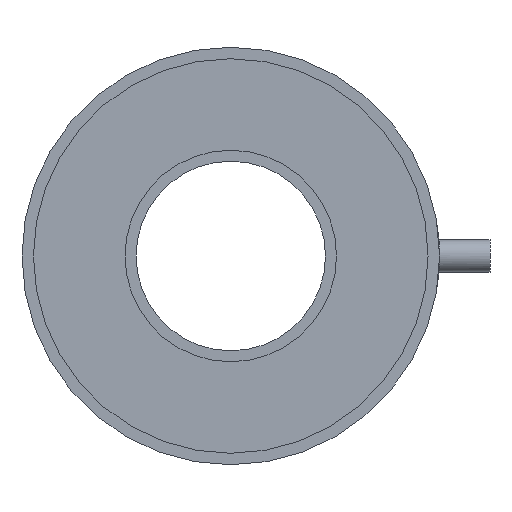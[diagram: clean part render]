
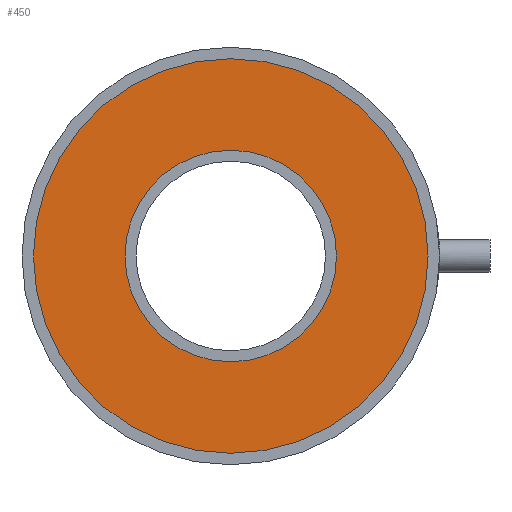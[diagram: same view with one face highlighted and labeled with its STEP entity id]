
A CAD part, front view. The second image highlights one B-rep face of the part: STEP entity #450.
In plain terms, the highlighted planar face has unit normal (0, -1, 0).
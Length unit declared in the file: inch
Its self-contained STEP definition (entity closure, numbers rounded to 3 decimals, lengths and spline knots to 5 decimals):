
#10 = EDGE_CURVE ( 'NONE', #221, #229, #108, .T. ) ;
#11 = EDGE_CURVE ( 'NONE', #226, #255, #128, .T. ) ;
#37 = ORIENTED_EDGE ( 'NONE', *, *, #10, .F. ) ;
#38 = ORIENTED_EDGE ( 'NONE', *, *, #410, .T. ) ;
#51 = EDGE_LOOP ( 'NONE', ( #77, #38 ) ) ;
#75 = ORIENTED_EDGE ( 'NONE', *, *, #374, .F. ) ;
#77 = ORIENTED_EDGE ( 'NONE', *, *, #11, .T. ) ;
#85 = EDGE_LOOP ( 'NONE', ( #75, #37 ) ) ;
#107 = CIRCLE ( 'NONE', #407, 0.2305 ) ;
#108 = CIRCLE ( 'NONE', #414, 0.2305 ) ;
#128 = CIRCLE ( 'NONE', #439, 0.43 ) ;
#169 = FACE_BOUND ( 'NONE', #85, .T. ) ;
#170 = FACE_OUTER_BOUND ( 'NONE', #51, .T. ) ;
#178 = CIRCLE ( 'NONE', #417, 0.43 ) ;
#221 = VERTEX_POINT ( 'NONE', #294 ) ;
#226 = VERTEX_POINT ( 'NONE', #267 ) ;
#229 = VERTEX_POINT ( 'NONE', #288 ) ;
#233 = DIRECTION ( 'NONE',  ( 0., -1., 0. ) ) ;
#240 = DIRECTION ( 'NONE',  ( 0., 0., -1. ) ) ;
#241 = CARTESIAN_POINT ( 'NONE',  ( 0., 0.0231, 0. ) ) ;
#243 = CARTESIAN_POINT ( 'NONE',  ( 0., 0.0231, 0. ) ) ;
#255 = VERTEX_POINT ( 'NONE', #314 ) ;
#267 = CARTESIAN_POINT ( 'NONE',  ( 0., 0.0231, -0.43 ) ) ;
#283 = DIRECTION ( 'NONE',  ( 0., 0., -1. ) ) ;
#284 = CARTESIAN_POINT ( 'NONE',  ( 0., 0.0231, 0. ) ) ;
#288 = CARTESIAN_POINT ( 'NONE',  ( 0., 0.0231, -0.2305 ) ) ;
#294 = CARTESIAN_POINT ( 'NONE',  ( 0., 0.0231, 0.2305 ) ) ;
#296 = DIRECTION ( 'NONE',  ( 0., -1., 0. ) ) ;
#301 = DIRECTION ( 'NONE',  ( 0., -1., 0. ) ) ;
#306 = DIRECTION ( 'NONE',  ( 0., 0., -1. ) ) ;
#314 = CARTESIAN_POINT ( 'NONE',  ( 0., 0.0231, 0.43 ) ) ;
#345 = DIRECTION ( 'NONE',  ( 0., -1., 0. ) ) ;
#351 = DIRECTION ( 'NONE',  ( 0., 0., -1. ) ) ;
#358 = CARTESIAN_POINT ( 'NONE',  ( 0., 0.0231, 0. ) ) ;
#374 = EDGE_CURVE ( 'NONE', #229, #221, #107, .T. ) ;
#407 = AXIS2_PLACEMENT_3D ( 'NONE', #284, #301, #283 ) ;
#410 = EDGE_CURVE ( 'NONE', #255, #226, #178, .T. ) ;
#414 = AXIS2_PLACEMENT_3D ( 'NONE', #241, #233, #240 ) ;
#417 = AXIS2_PLACEMENT_3D ( 'NONE', #358, #345, #351 ) ;
#418 = AXIS2_PLACEMENT_3D ( 'NONE', #492, #527, #497 ) ;
#439 = AXIS2_PLACEMENT_3D ( 'NONE', #243, #296, #306 ) ;
#450 = ADVANCED_FACE ( 'NONE', ( #169, #170 ), #517, .T. ) ;
#492 = CARTESIAN_POINT ( 'NONE',  ( 0., 0.0231, 0. ) ) ;
#497 = DIRECTION ( 'NONE',  ( 0., 0., -1. ) ) ;
#517 = PLANE ( 'NONE',  #418 ) ;
#527 = DIRECTION ( 'NONE',  ( 0., -1., 0. ) ) ;
